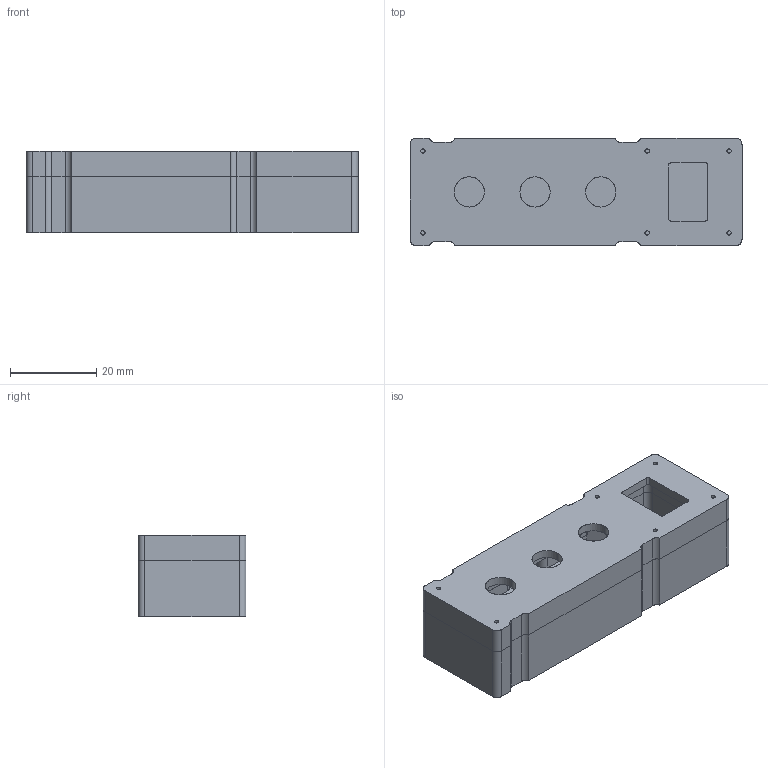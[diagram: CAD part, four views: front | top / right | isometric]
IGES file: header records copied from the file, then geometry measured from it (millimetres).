
Start section: SolidWorks IGES file using analytic representation for surfaces
Global section: file name: K:\Benjamin Jung\4 SolidWorks\Boite Bouton Strobo\Nouveau dossier\Boitier assemblé.IGS; native system: SolidWorks 2009; preprocessor: SolidWorks 2009; author: bjung; date: 160201.103907; units: millimetre
Bounding box: 77 x 25 x 19 mm (x, y, z)
Surface area: 13620.3 mm2 (no closed solid volume)
Topology: 0 solids, 0 shells, 180 faces, 2240 edges, 2240 vertices
Faces by surface type: revolution 96, bspline 84
